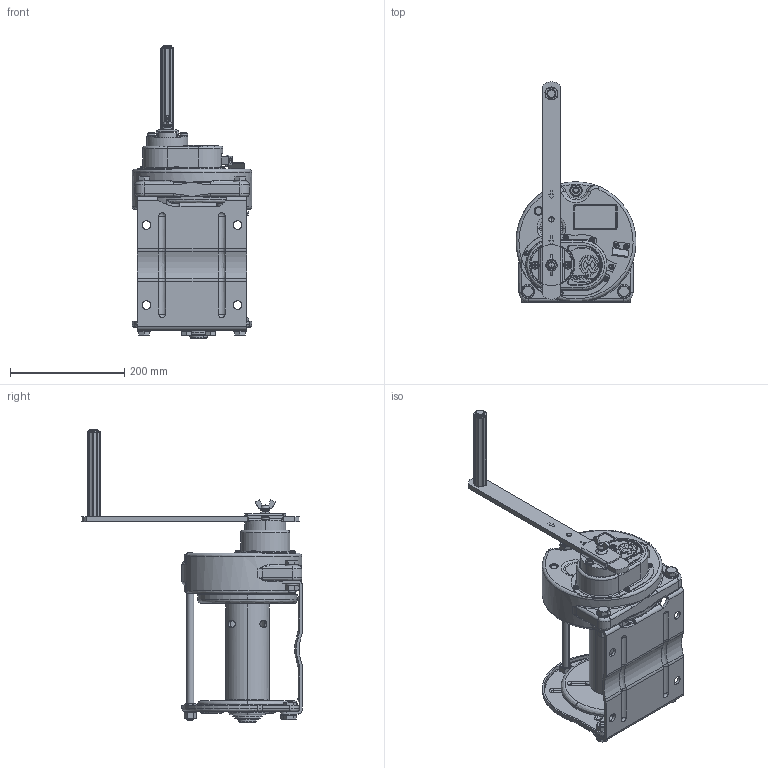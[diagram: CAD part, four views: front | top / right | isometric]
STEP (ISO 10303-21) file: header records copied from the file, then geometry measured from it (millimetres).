
FILE_DESCRIPTION( (''), '2;1');
FILE_NAME ('GM-10.stp','2023-12-20T17:17:43',(''),(''),'spGate 19.8.2 (****-****-****-****)','','');
FILE_SCHEMA (('AUTOMOTIVE_DESIGN'));
Length unit declared in the file: millimetre
Products named in the file (3): Assembly; GM-10-prt0; GM-10-prt1
Assembly tree (2 placements, depth 2):
  Assembly
    GM-10-prt0
    GM-10-prt1
Bounding box: 209.96 x 385.43 x 513.1 mm (x, y, z)
Volume: 3975275 mm3; surface area: 690666.7 mm2
Topology: 2 solids, 2 shells, 2614 faces, 6703 edges, 4194 vertices
Faces by surface type: plane 1248, cylinder 843, bspline 459, sphere 64
Entity records: 143071 total; most frequent: CARTESIAN_POINT 27796, ORIENTED_EDGE 13302, DIRECTION 12783, COLOUR_RGB 9267, PRESENTATION_STYLE_ASSIGNMENT 9267, STYLED_ITEM 9267, EDGE_CURVE 6651, DRAUGHTING_PRE_DEFINED_CURVE_FONT 6651
